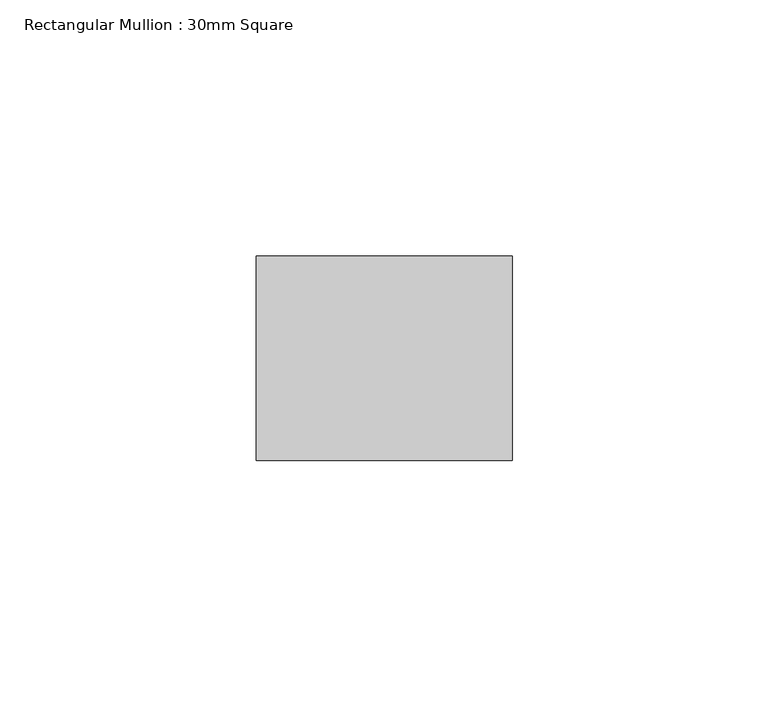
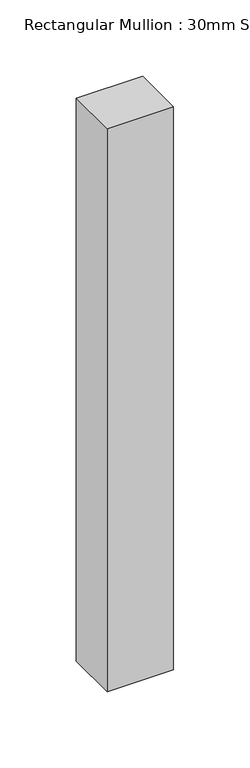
"""IFC4 building model written with IfcOpenShell, lengths in millimetres: member geometry, Rectangular Mullion : 30mm Square."""

from ifc_helpers import new_model, si_unit, frame, origin, place, context, project, spatial, polyline, outline, extrude, source, transform, mapped, element, save


def rectangular_mullion_30mm_square_41413a28(model_context):
    return source(origin(), model_context, "Body", "SweptSolid", [
        extrude(outline(polyline([(25.0, 20.0), (25.0, -20.0), (-25.0, -20.0), (-25.0, 20.0), (25.0, 20.0)])), frame((0.0, 0.0, -449.1666667), z_axis=(0.0, 0.0, 1.0), x_axis=(1.0, 0.0, 0.0)), (0.0, 0.0, 1.0), 449.1666667),
    ])


if __name__ == "__main__":
    model = new_model("IFC4")
    model_context = context("Model", 3, world=origin())
    ifc_project = project(units=[si_unit("LENGTHUNIT", "METRE", prefix="MILLI")], contexts=[model_context])
    site = spatial("IfcSite", under=ifc_project)
    building = spatial("IfcBuilding", under=site)
    placement = place(None, origin())
    rectangular_mullion_30mm_square_shape = rectangular_mullion_30mm_square_41413a28(model_context)
    element("IfcMember", 1, ObjectType="Rectangular Mullion : 30mm Square", at=placement, inside=building, context=model_context, shape_type="MappedRepresentation", body=[
        mapped(rectangular_mullion_30mm_square_shape, transform((0.0, 0.0, 0.0), x_axis=(1.0, 0.0, 0.0), y_axis=(0.0, 1.0, 0.0), z_axis=(0.0, 0.0, 1.0))),
    ])
    save(model, "model.ifc")
